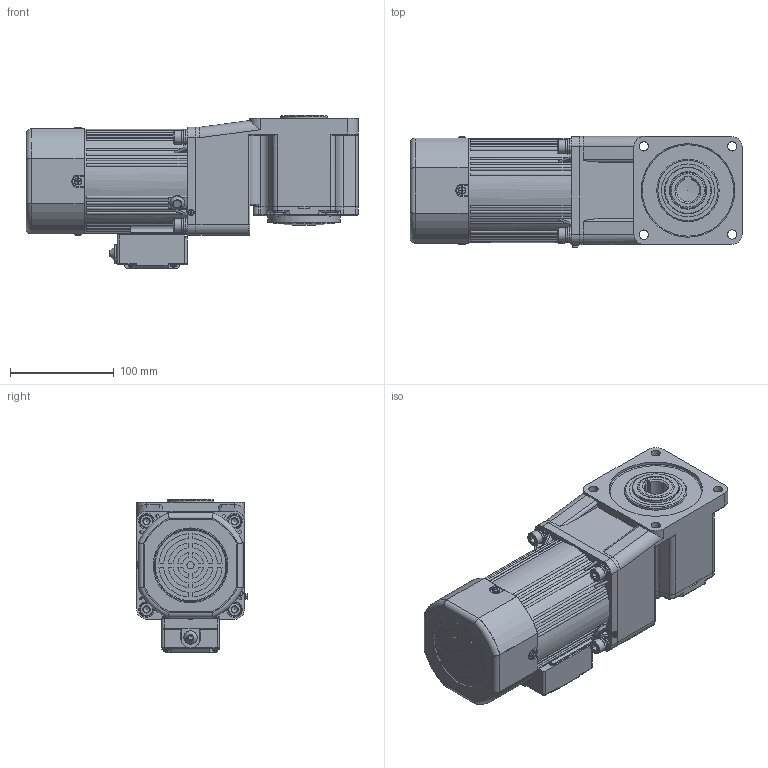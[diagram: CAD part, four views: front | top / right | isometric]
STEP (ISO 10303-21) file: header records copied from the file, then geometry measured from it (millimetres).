
FILE_DESCRIPTION(/* description */ (''),/* implementation_level */ '2;1');
FILE_NAME(/* name */ '100+直角中空-刹车风叶-120-140W 新版长款接线盒.stp',/* time_stamp */ '2025-04-07T19:49:41+08:00',/* author */ (''),/* organization */ (''),/* preprocessor_version */ 'ST-DEVELOPER v18.102',/* originating_system */ 'SIEMENS PLM Software NX 2027',/* authorisation */ '');
FILE_SCHEMA (('AP203_CONFIGURATION_CONTROLLED_3D_DESIGN_OF_MECHANICAL_PARTS_AND_ASSEMBLIES_MIM_LF { 1 0 10303 403 2 1 2}'));
Products named in the file (1): 100+直角中空-刹车风叶-120
-140W 新版_stp_objects
Bounding box: 319.5 x 106.83 x 147.5 mm (x, y, z)
Volume: 3089672.6 mm3; surface area: 444206.5 mm2
Topology: 25 solids, 25 shells, 2417 faces, 6281 edges, 4028 vertices
Faces by surface type: plane 1098, cylinder 780, bspline 221, torus 154, cone 118, sphere 46
Full cylindrical faces by diameter (mm): 2.2 x2, 2.6 x2, 2.7 x1, 2.9 x4, 3 x3, 3.2 x2, 3.3 x6, 3.5 x8, 3.6 x4, 4 x4, 4.2 x1, 4.55 x2, 4.8 x1, 5.1 x2, 5.15 x2, 5.6 x4, 6 x12, 6.8 x12, 7 x3, 7.5 x2, 7.76 x4, 8 x1, 8.4 x4, 9 x13, 9.3 x1, 9.5 x4, 10 x2, 13 x4, 14 x8, 15 x5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
Entity records: 75141 total; most frequent: CARTESIAN_POINT 18452, ORIENTED_EDGE 11592, DIRECTION 11341, EDGE_CURVE 5796, AXIS2_PLACEMENT_3D 4361, VERTEX_POINT 3877, EDGE_LOOP 2970, LINE 2619
